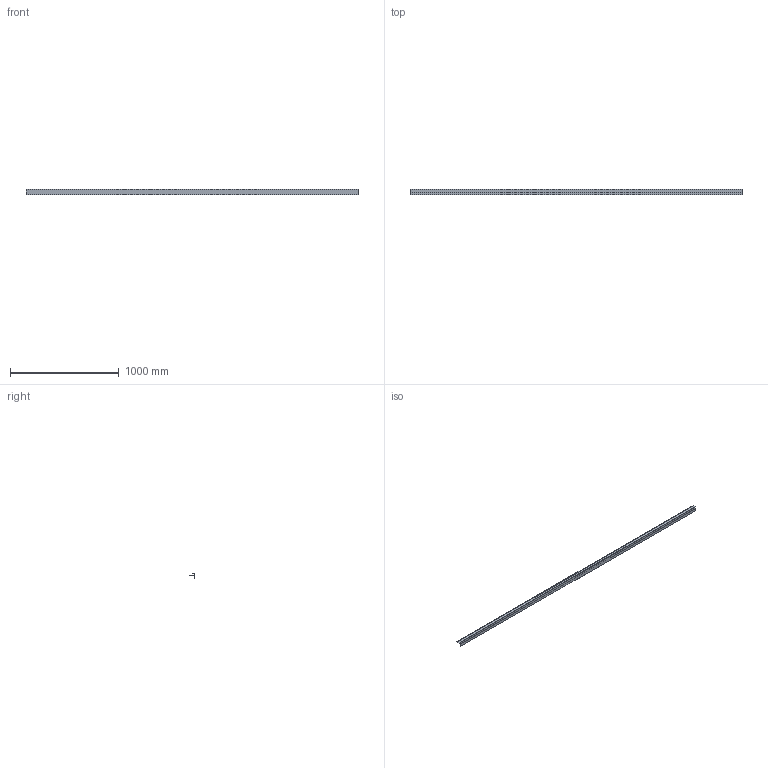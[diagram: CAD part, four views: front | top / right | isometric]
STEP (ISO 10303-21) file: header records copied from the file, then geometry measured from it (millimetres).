
FILE_DESCRIPTION(/* description */ (''),/* implementation_level */ '2;1');
FILE_NAME(/* name */ 'C:\Users\Utilisateur\Mac Metal\Site de communication - Documents\Ingénierie\Développement de produits\Board and Batten\Dessins\Moulures\J trim à palette variable (facade de 1 po)\J-trim à palette variable (facade de 1po).stp',/* time_stamp */ '2022-06-29T17:56:40-04:00',/* author */ ('Utilisateur'),/* organization */ (''),/* preprocessor_version */ 'ST-DEVELOPER v18.1',/* originating_system */ 'Autodesk Inventor 2021',/* authorisation */ '');
FILE_SCHEMA (('AUTOMOTIVE_DESIGN { 1 0 10303 214 3 1 1 }'));
Length unit declared in the file: inch
Products named in the file (1): J-trim à palette variable (facade de 1po)
Bounding box: 3048 x 52.32 x 46.04 mm (x, y, z)
Volume: 254924.7 mm3; surface area: 1006408.1 mm2
Topology: 1 solids, 1 shells, 22 faces, 60 edges, 40 vertices
Faces by surface type: plane 14, cylinder 8
Entity records: 743 total; most frequent: CARTESIAN_POINT 123, DIRECTION 122, ORIENTED_EDGE 120, EDGE_CURVE 60, LINE 44, VECTOR 44, VERTEX_POINT 40, AXIS2_PLACEMENT_3D 39
